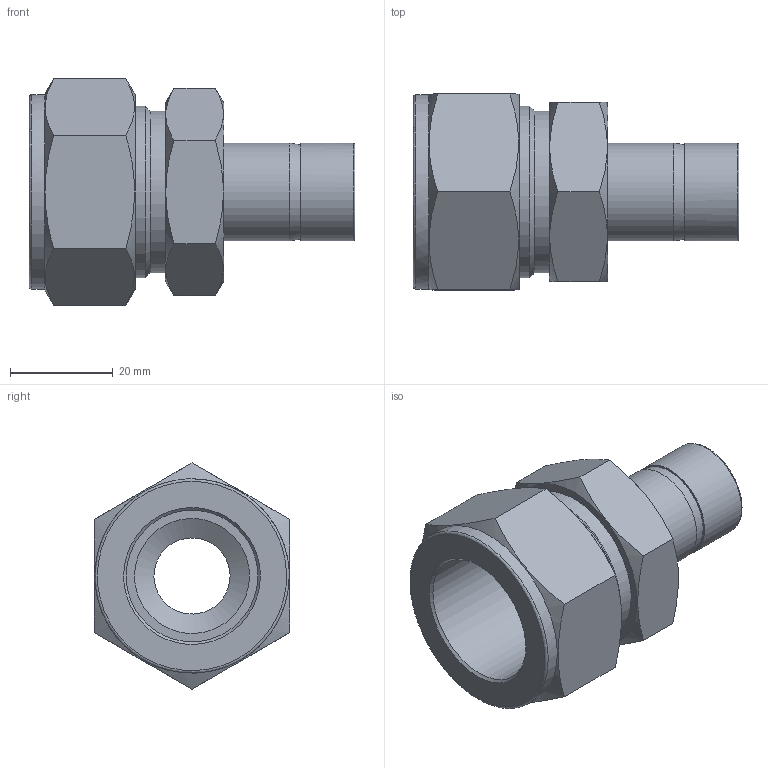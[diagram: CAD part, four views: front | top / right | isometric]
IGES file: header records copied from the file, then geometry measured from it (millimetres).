
Global section: file name: SR-16-12; native system: Autodesk Inventor 2016; preprocessor: unknown; author: DESIGNPC2; date: 20151113.085451; units: millimetre
Bounding box: 63.36 x 38.1 x 43.99 mm (x, y, z)
Volume: 27575.6 mm3; surface area: 12503.8 mm2
Topology: 1 solids, 1 shells, 37 faces, 106 edges, 76 vertices
Faces by surface type: bspline 37
